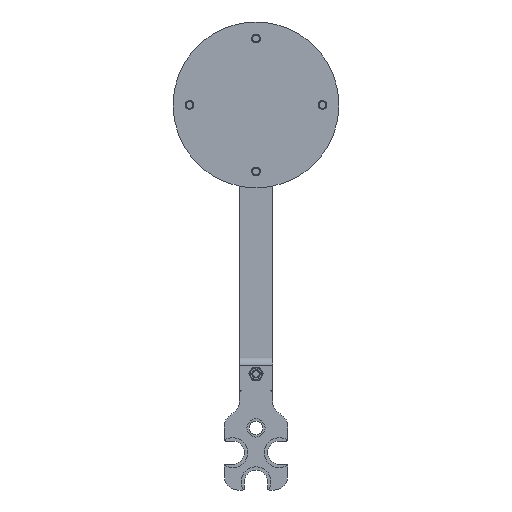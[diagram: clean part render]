
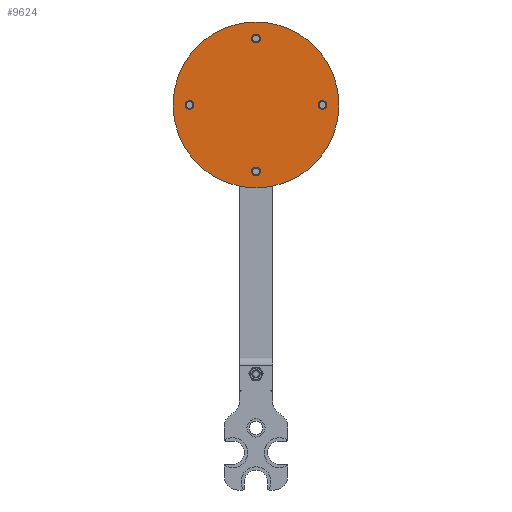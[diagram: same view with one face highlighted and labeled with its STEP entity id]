
A CAD part, front view. The second image highlights one B-rep face of the part: STEP entity #9624.
In plain terms, the highlighted planar face has unit normal (0, -1, 0) as drawn and (0, 0, 1) by its records, which use the part's own axes.
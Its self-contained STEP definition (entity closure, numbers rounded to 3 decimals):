
#566=FACE_BOUND('',#1320,.T.);
#567=FACE_BOUND('',#1321,.T.);
#568=FACE_BOUND('',#1322,.T.);
#569=FACE_BOUND('',#1323,.T.);
#740=FACE_OUTER_BOUND('',#1319,.T.);
#1319=EDGE_LOOP('',(#6988));
#1320=EDGE_LOOP('',(#6989));
#1321=EDGE_LOOP('',(#6990));
#1322=EDGE_LOOP('',(#6991));
#1323=EDGE_LOOP('',(#6992));
#1879=CIRCLE('',#10570,2.567);
#1882=CIRCLE('',#10574,50.);
#1883=CIRCLE('',#10575,2.567);
#1884=CIRCLE('',#10576,2.567);
#1885=CIRCLE('',#10577,2.567);
#4182=VERTEX_POINT('',#14560);
#4185=VERTEX_POINT('',#14568);
#4186=VERTEX_POINT('',#14570);
#4187=VERTEX_POINT('',#14572);
#4188=VERTEX_POINT('',#14574);
#5229=EDGE_CURVE('',#4182,#4182,#1879,.T.);
#5233=EDGE_CURVE('',#4185,#4185,#1882,.T.);
#5234=EDGE_CURVE('',#4186,#4186,#1883,.T.);
#5235=EDGE_CURVE('',#4187,#4187,#1884,.T.);
#5236=EDGE_CURVE('',#4188,#4188,#1885,.T.);
#6988=ORIENTED_EDGE('',*,*,#5233,.T.);
#6989=ORIENTED_EDGE('',*,*,#5234,.F.);
#6990=ORIENTED_EDGE('',*,*,#5235,.F.);
#6991=ORIENTED_EDGE('',*,*,#5236,.F.);
#6992=ORIENTED_EDGE('',*,*,#5229,.F.);
#9256=PLANE('',#10573);
#9624=ADVANCED_FACE('',(#740,#566,#567,#568,#569),#9256,.T.);
#10570=AXIS2_PLACEMENT_3D('',#14561,#11902,#11903);
#10573=AXIS2_PLACEMENT_3D('',#14567,#11909,#11910);
#10574=AXIS2_PLACEMENT_3D('',#14569,#11911,#11912);
#10575=AXIS2_PLACEMENT_3D('',#14571,#11913,#11914);
#10576=AXIS2_PLACEMENT_3D('',#14573,#11915,#11916);
#10577=AXIS2_PLACEMENT_3D('',#14575,#11917,#11918);
#11902=DIRECTION('center_axis',(0.,0.,1.));
#11903=DIRECTION('ref_axis',(0.,-1.,0.));
#11909=DIRECTION('center_axis',(0.,0.,1.));
#11910=DIRECTION('ref_axis',(1.,0.,0.));
#11911=DIRECTION('center_axis',(0.,0.,1.));
#11912=DIRECTION('ref_axis',(1.,0.,0.));
#11913=DIRECTION('center_axis',(0.,0.,1.));
#11914=DIRECTION('ref_axis',(1.,0.,0.));
#11915=DIRECTION('center_axis',(0.,0.,1.));
#11916=DIRECTION('ref_axis',(-1.,0.,0.));
#11917=DIRECTION('center_axis',(0.,0.,1.));
#11918=DIRECTION('ref_axis',(0.,1.,0.));
#14560=CARTESIAN_POINT('',(-40.,2.567,20.));
#14561=CARTESIAN_POINT('Origin',(-40.,0.,20.));
#14567=CARTESIAN_POINT('Origin',(0.,0.,20.));
#14568=CARTESIAN_POINT('',(-50.,0.,20.));
#14569=CARTESIAN_POINT('Origin',(0.,0.,20.));
#14570=CARTESIAN_POINT('',(-2.567,-40.,20.));
#14571=CARTESIAN_POINT('Origin',(0.,-40.,20.));
#14572=CARTESIAN_POINT('',(2.567,40.,20.));
#14573=CARTESIAN_POINT('Origin',(0.,40.,20.));
#14574=CARTESIAN_POINT('',(40.,-2.567,20.));
#14575=CARTESIAN_POINT('Origin',(40.,0.,20.));
